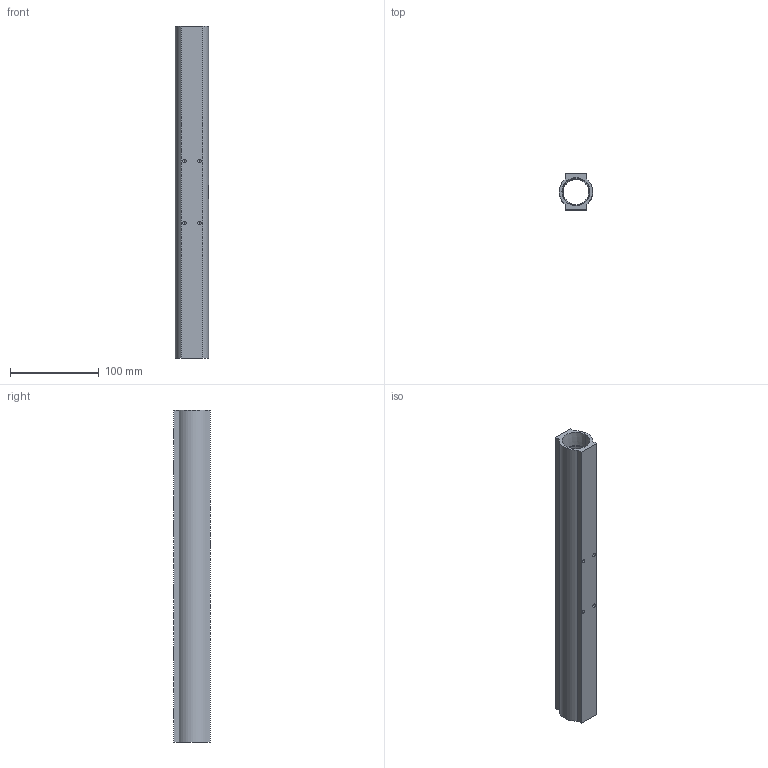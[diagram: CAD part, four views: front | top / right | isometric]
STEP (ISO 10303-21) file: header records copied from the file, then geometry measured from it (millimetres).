
FILE_DESCRIPTION (( 'STEP AP214' ), '1' );
FILE_NAME ('BWM10616B.STEP', '2022-03-15T05:18:33', ( '' ), ( '' ), 'SwSTEP 2.0', 'SolidWorks 2020', '' );
FILE_SCHEMA (( 'AUTOMOTIVE_DESIGN' ));
Length unit declared in the file: millimetre
Products named in the file (1): BWM10616B
Bounding box: 37.44 x 41 x 375 mm (x, y, z)
Volume: 205863.9 mm3; surface area: 87125.7 mm2
Topology: 1 solids, 1 shells, 224 faces, 598 edges, 392 vertices
Faces by surface type: plane 98, bspline 51, cylinder 43, cone 32
Entity records: 12757 total; most frequent: CARTESIAN_POINT 5650, ORIENTED_EDGE 1180, DIRECTION 786, EDGE_CURVE 590, VERTEX_POINT 392, LINE 290, VECTOR 290, EDGE_LOOP 270
